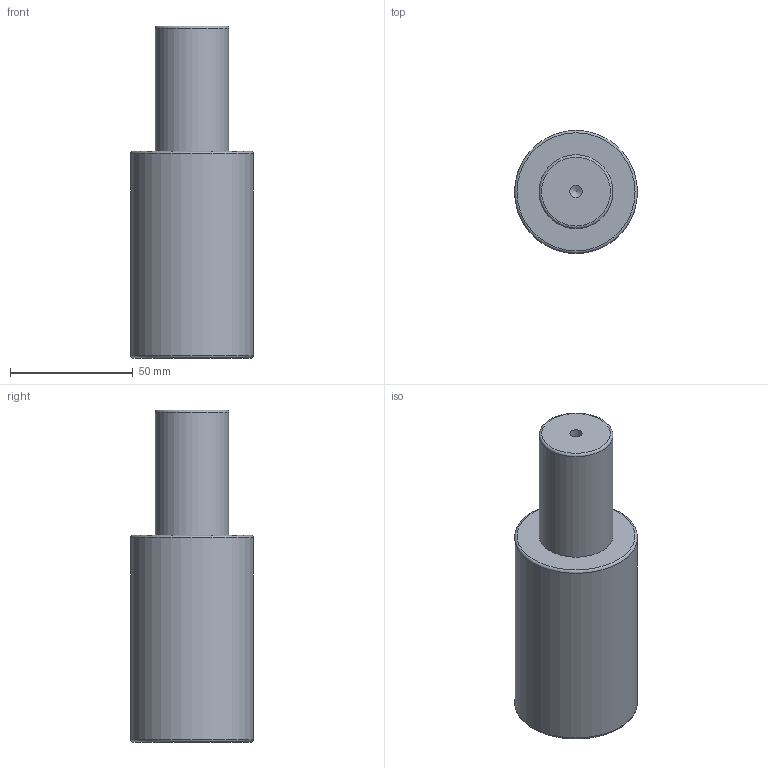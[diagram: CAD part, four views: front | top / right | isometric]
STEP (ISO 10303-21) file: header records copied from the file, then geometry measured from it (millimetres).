
FILE_DESCRIPTION(/* description */ (''),/* implementation_level */ '2;1');
FILE_NAME(/* name */ 'NV5-SMLX.50x50.stp',/* time_stamp */ '2018-08-31T16:08:33+02:00',/* author */ (''),/* organization */ (''),/* preprocessor_version */ 'ST-DEVELOPER v16',/* originating_system */ 'SIEMENS PLM Software NX 10.0',/* authorisation */ '');
FILE_SCHEMA (('AUTOMOTIVE_DESIGN { 1 0 10303 214 3 1 1 1 }'));
Length unit declared in the file: millimetre
Products named in the file (1): NV5-SMLX.50x50
Bounding box: 50 x 50 x 135 mm (x, y, z)
Volume: 199657.9 mm3; surface area: 22391.2 mm2
Topology: 1 solids, 1 shells, 12 faces, 24 edges, 15 vertices
Faces by surface type: cylinder 4, torus 3, plane 3, cone 2
Full cylindrical faces by diameter (mm): 5 x1, 8.5 x1, 30 x1, 50 x1
Entity records: 266 total; most frequent: DIRECTION 48, CARTESIAN_POINT 37, FACE_BOUND 24, AXIS2_PLACEMENT_3D 24, EDGE_LOOP 22, ORIENTED_EDGE 22, VERTEX_POINT 13, ADVANCED_FACE 12
